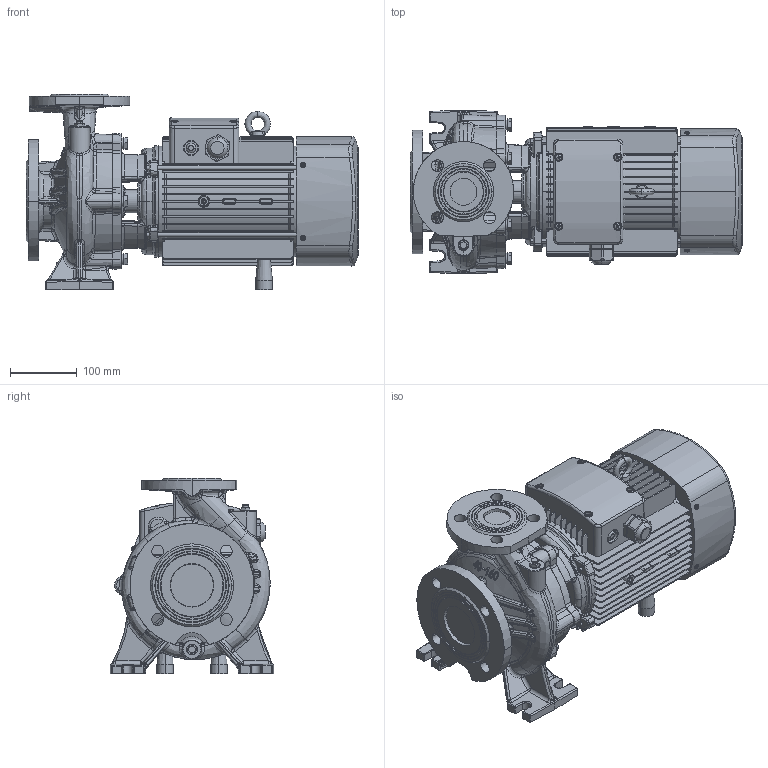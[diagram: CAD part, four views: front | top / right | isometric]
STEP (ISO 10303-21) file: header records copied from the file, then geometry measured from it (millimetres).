
FILE_DESCRIPTION (( 'STEP AP203' ), '1' );
FILE_NAME ('TST40-160-3 4.STEP', '2026-04-27T05:48:47', ( '微软用户' ), ( '微软中国' ), 'SwSTEP 2.0', 'SolidWorks 2020', '' );
FILE_SCHEMA (( 'CONFIG_CONTROL_DESIGN' ));
Products named in the file (1): TST40-160-3 4
Bounding box: 496.5 x 244.69 x 292 mm (x, y, z)
Volume: 12992037 mm3; surface area: 969763.3 mm2
Topology: 1 solids, 1 shells, 4172 faces, 10550 edges, 6517 vertices
Faces by surface type: plane 1813, bspline 1081, cylinder 611, cone 386, torus 198, sphere 83
Entity records: 188728 total; most frequent: CARTESIAN_POINT 96961, ORIENTED_EDGE 20944, DIRECTION 16530, EDGE_CURVE 10472, VERTEX_POINT 6517, AXIS2_PLACEMENT_3D 5952, LINE 4626, VECTOR 4626
